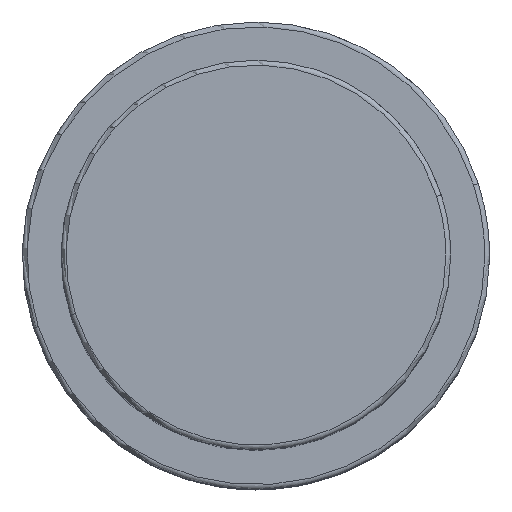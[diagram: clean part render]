
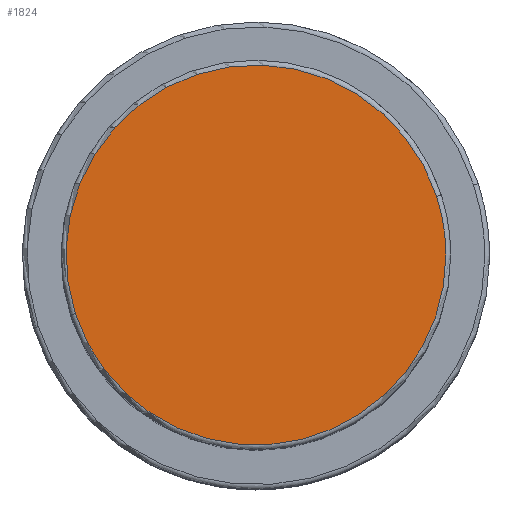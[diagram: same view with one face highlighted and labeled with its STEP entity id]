
A CAD part, top view. The second image highlights one B-rep face of the part: STEP entity #1824.
In plain terms, the highlighted planar face has unit normal (0, 0, 1).
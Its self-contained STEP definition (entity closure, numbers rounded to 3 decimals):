
#1757=CARTESIAN_POINT('',(18.546,6.026,58.5));
#1758=VERTEX_POINT('',#1757);
#1776=CARTESIAN_POINT('',(-18.546,-6.026,58.5));
#1777=VERTEX_POINT('',#1776);
#1785=CARTESIAN_POINT('',(0.0,0.0,58.5));
#1786=DIRECTION('',(0.0,0.0,1.0));
#1787=DIRECTION('',(1.0,0.0,0.0));
#1788=AXIS2_PLACEMENT_3D('',#1785,#1786,#1787);
#1789=CIRCLE('',#1788,19.5);
#1790=EDGE_CURVE('no 1933',#1758,#1777,#1789,.T.);
#1800=CARTESIAN_POINT('',(19.5,0.0,58.5));
#1801=VERTEX_POINT('',#1800);
#1802=CARTESIAN_POINT('',(0.0,0.0,58.5));
#1803=DIRECTION('',(0.0,0.0,1.0));
#1804=DIRECTION('',(1.0,0.0,0.0));
#1805=AXIS2_PLACEMENT_3D('',#1802,#1803,#1804);
#1806=CIRCLE('',#1805,19.5);
#1807=EDGE_CURVE('no 1942',#1801,#1758,#1806,.T.);
#1808=ORIENTED_EDGE('',*,*,#1807,.T.);
#1809=ORIENTED_EDGE('',*,*,#1790,.T.);
#1810=CARTESIAN_POINT('',(0.0,0.0,58.5));
#1811=DIRECTION('',(0.0,0.0,1.0));
#1812=DIRECTION('',(1.0,0.0,0.0));
#1813=AXIS2_PLACEMENT_3D('',#1810,#1811,#1812);
#1814=CIRCLE('',#1813,19.5);
#1815=EDGE_CURVE('no 1948',#1777,#1801,#1814,.T.);
#1816=ORIENTED_EDGE('',*,*,#1815,.T.);
#1817=EDGE_LOOP('',(#1808,#1809,#1816));
#1818=FACE_OUTER_BOUND('',#1817,.T.);
#1819=CARTESIAN_POINT('',(0.0,0.0,58.5));
#1820=DIRECTION('',(0.0,0.0,1.0));
#1821=DIRECTION('',(1.0,0.0,0.0));
#1822=AXIS2_PLACEMENT_3D('',#1819,#1820,#1821);
#1823=PLANE('',#1822);
#1824=ADVANCED_FACE('no 1935',(#1818),#1823,.T.);
